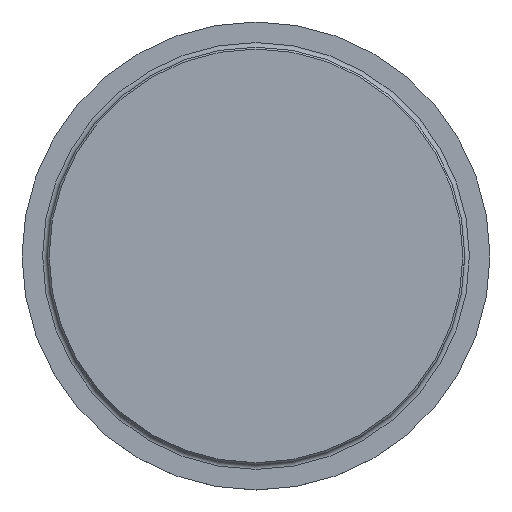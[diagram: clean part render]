
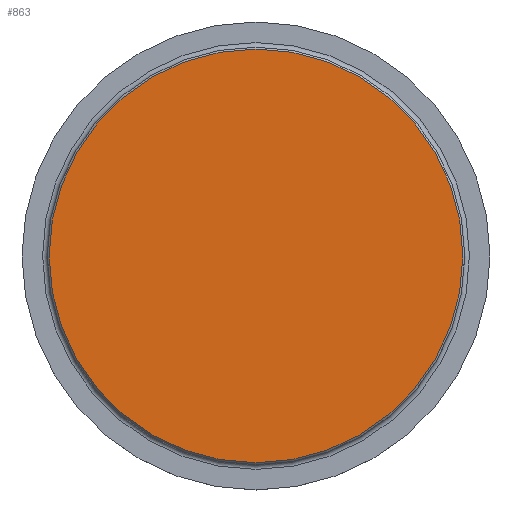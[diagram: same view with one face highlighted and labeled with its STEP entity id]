
A CAD part, top view. The second image highlights one B-rep face of the part: STEP entity #863.
In plain terms, the highlighted planar face has unit normal (0, 0, 1).
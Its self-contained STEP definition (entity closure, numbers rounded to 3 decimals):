
#863=ADVANCED_FACE('',(#933),#904,.T.);
#904=PLANE('',#2087);
#933=FACE_OUTER_BOUND('',#1057,.T.);
#1057=EDGE_LOOP('',(#1503));
#1503=ORIENTED_EDGE('',*,*,#1945,.T.);
#1722=VERTEX_POINT('',#3537);
#1945=EDGE_CURVE('',#1722,#1722,#1983,.T.);
#1983=CIRCLE('',#2085,11.05);
#2085=AXIS2_PLACEMENT_3D('',#3536,#2292,#2293);
#2087=AXIS2_PLACEMENT_3D('',#3539,#2296,#2297);
#2292=DIRECTION('',(0.,0.,1.));
#2293=DIRECTION('',(0.,1.,0.));
#2296=DIRECTION('',(0.,0.,1.));
#2297=DIRECTION('',(1.,0.,0.));
#3536=CARTESIAN_POINT('',(0.,0.,1.15));
#3537=CARTESIAN_POINT('',(0.,11.05,1.15));
#3539=CARTESIAN_POINT('',(0.,0.,1.15));
